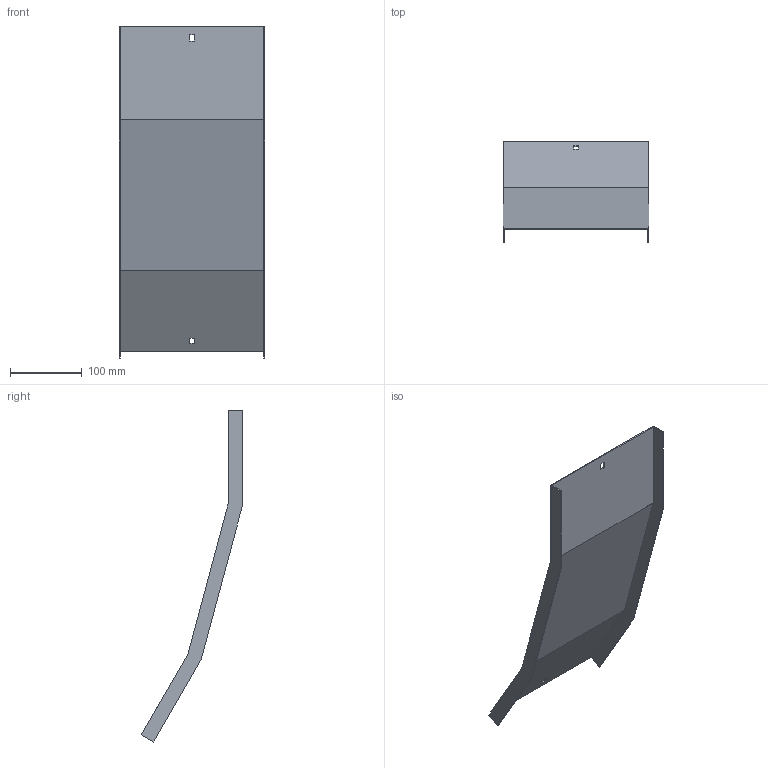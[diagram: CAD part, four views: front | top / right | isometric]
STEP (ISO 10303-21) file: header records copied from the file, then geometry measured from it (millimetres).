
FILE_DESCRIPTION (( 'STEP AP214' ), '1' );
FILE_NAME ('32N5R200_H150.step', '2025-02-21T14:28:02', ( '' ), ( '' ), 'SwSTEP 2.0', 'SolidWorks 2023', '' );
FILE_SCHEMA (( 'AUTOMOTIVE_DESIGN' ));
Length unit declared in the file: millimetre
Products named in the file (1): 32N5R200_H150
Bounding box: 203 x 141.68 x 464.12 mm (x, y, z)
Volume: 172699 mm3; surface area: 232545.7 mm2
Topology: 1 solids, 1 shells, 26 faces, 72 edges, 48 vertices
Faces by surface type: plane 26
Entity records: 847 total; most frequent: CARTESIAN_POINT 147, ORIENTED_EDGE 144, DIRECTION 126, LINE 72, VECTOR 72, EDGE_CURVE 72, VERTEX_POINT 48, EDGE_LOOP 30
